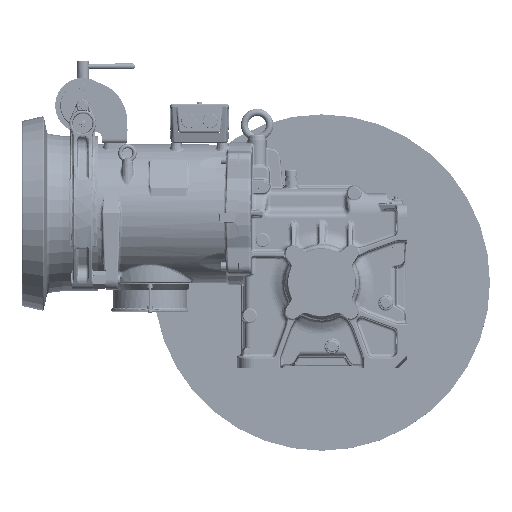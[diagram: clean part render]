
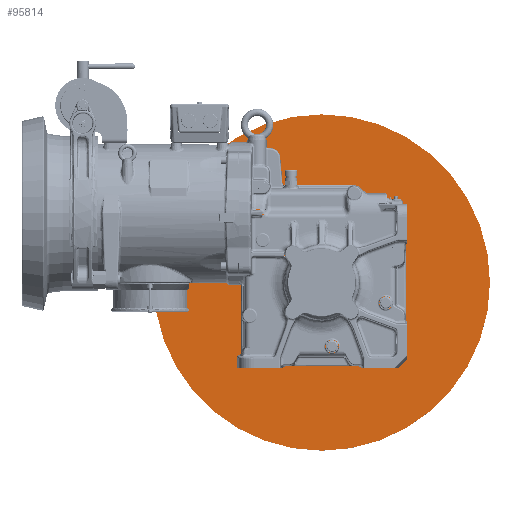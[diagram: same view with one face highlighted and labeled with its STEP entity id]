
A CAD part, top view. The second image highlights one B-rep face of the part: STEP entity #95814.
In plain terms, the highlighted planar face has unit normal (0, 0, 1).
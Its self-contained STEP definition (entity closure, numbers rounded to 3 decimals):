
#95515=CARTESIAN_POINT('',(0.,0.,-157.));
#95516=DIRECTION('',(0.,0.,-1.));
#95517=DIRECTION('',(1.,0.,0.));
#95518=AXIS2_PLACEMENT_3D('',#95515,#95516,#95517);
#95529=CARTESIAN_POINT('',(0.,0.,-157.));
#95530=DIRECTION('',(0.,0.,-1.));
#95531=DIRECTION('',(-1.,0.,0.));
#95532=AXIS2_PLACEMENT_3D('',#95529,#95530,#95531);
#95582=CARTESIAN_POINT('',(327.,0.,-157.));
#95583=CARTESIAN_POINT('',(-327.,0.,-157.));
#95584=VERTEX_POINT('',#95582);
#95585=VERTEX_POINT('',#95583);
#95805=CARTESIAN_POINT('',(0.,0.,-157.));
#95806=DIRECTION('',(0.,0.,1.));
#95807=DIRECTION('',(0.,-1.,0.));
#95808=AXIS2_PLACEMENT_3D('',#95805,#95806,#95807);
#95809=PLANE('',#95808);
#95810=ORIENTED_EDGE('',*,*,#95784,.T.);
#95811=ORIENTED_EDGE('',*,*,#95799,.T.);
#95812=EDGE_LOOP('',(#95810,#95811));
#95813=FACE_OUTER_BOUND('',#95812,.F.);
#95814=ADVANCED_FACE('',(#95813),#95809,.T.);
#95519=CIRCLE('',#95518,327.);
#95533=CIRCLE('',#95532,327.);
#95784=EDGE_CURVE('',#95584,#95585,#95519,.T.);
#95799=EDGE_CURVE('',#95585,#95584,#95533,.T.);
